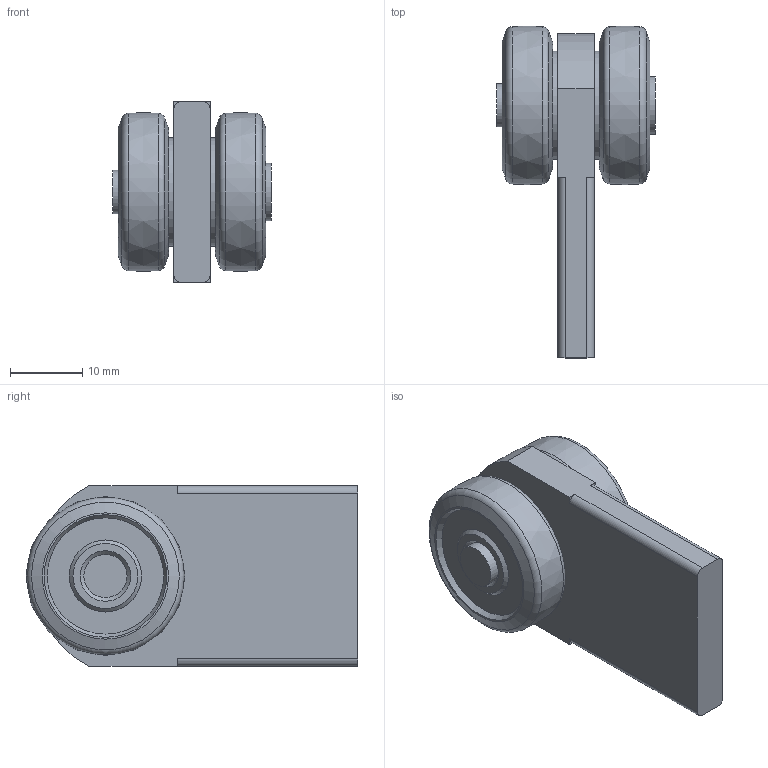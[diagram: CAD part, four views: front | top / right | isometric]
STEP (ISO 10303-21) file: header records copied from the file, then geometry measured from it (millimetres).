
FILE_DESCRIPTION(/* description */ ('Bolzen'),/* implementation_level */ '2;1');
FILE_NAME(/* name */ 'Q:\sge-ma\Produktmanagement-STB\STB\Workspace\stp\010336821.stp',/* time_stamp */ '2016-07-18T12:46:12+02:00',/* author */ ('avschreier'),/* organization */ (''),/* preprocessor_version */ 'ST-DEVELOPER v16.1',/* originating_system */ 'Autodesk Inventor 2016',/* authorisation */ '');
FILE_SCHEMA (('AUTOMOTIVE_DESIGN { 1 0 10303 214 3 1 1 }'));
Length unit declared in the file: millimetre
Products named in the file (5): 000304010; 000226090; 337000209; 000303234; 010336821
Assembly tree (6 placements, depth 2):
  010336821
    000304010
    000226090  x2
    337000209
    000303234  x2
Bounding box: 22 x 46 x 25 mm (x, y, z)
Volume: 10259.4 mm3; surface area: 6471.4 mm2
Topology: 6 solids, 6 shells, 65 faces, 124 edges, 80 vertices
Faces by surface type: plane 28, cone 16, cylinder 14, torus 5, bspline 2
Full cylindrical faces by diameter (mm): 6 x3, 6.1 x1, 6.4 x2, 8 x1, 15 x2
Entity records: 1191 total; most frequent: DIRECTION 214, CARTESIAN_POINT 205, ORIENTED_EDGE 136, AXIS2_PLACEMENT_3D 94, EDGE_LOOP 71, EDGE_CURVE 68, VERTEX_POINT 55, FACE_OUTER_BOUND 43
